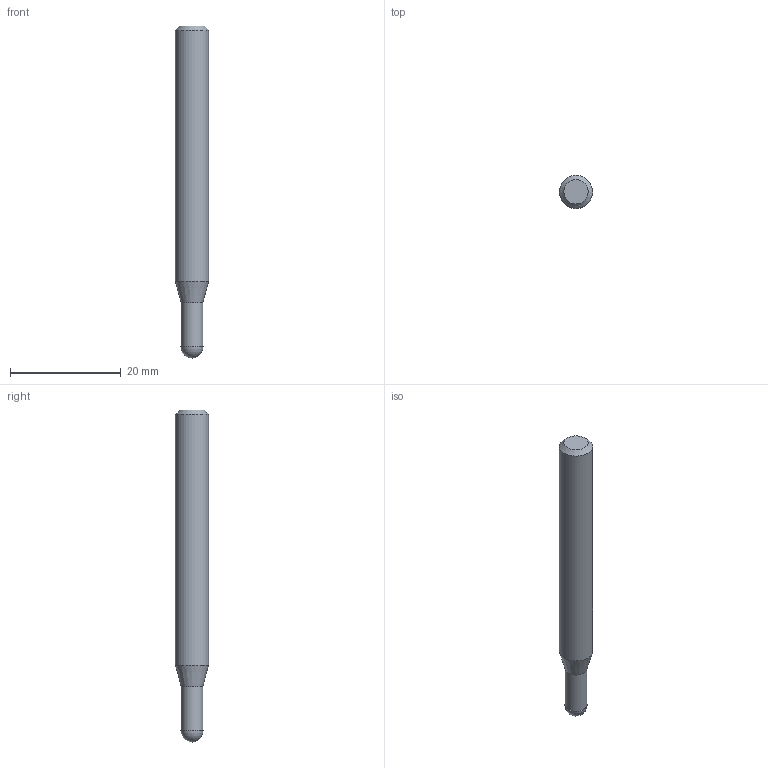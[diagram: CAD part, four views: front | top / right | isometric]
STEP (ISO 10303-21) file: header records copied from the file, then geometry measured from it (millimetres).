
FILE_DESCRIPTION((''),'2;1');
FILE_NAME('C:\Users\nsx150\AppData\Local\Temp\Mastercam 2021\YL1MSSW1B8\TEMP.step','2022-11-24T15:43:16',(''),(''),'STEP Write','Mastercam 2021 ... CNC Software, Inc.','');
FILE_SCHEMA(('AUTOMOTIVE_DESIGN'));
Length unit declared in the file: millimetre
Products named in the file (1): None
Bounding box: 6 x 6 x 60 mm (x, y, z)
Volume: 1487.9 mm3; surface area: 1098.8 mm2
Topology: 2 solids, 2 shells, 8 faces, 12 edges, 7 vertices
Faces by surface type: plane 3, cone 2, cylinder 2, sphere 1
Full cylindrical faces by diameter (mm): 3.92 x1, 6 x1
Entity records: 190 total; most frequent: DIRECTION 32, CARTESIAN_POINT 22, AXIS2_PLACEMENT_3D 16, ORIENTED_EDGE 12, EDGE_LOOP 12, STYLED_ITEM 11, ADVANCED_FACE 8, VERTEX_POINT 6
